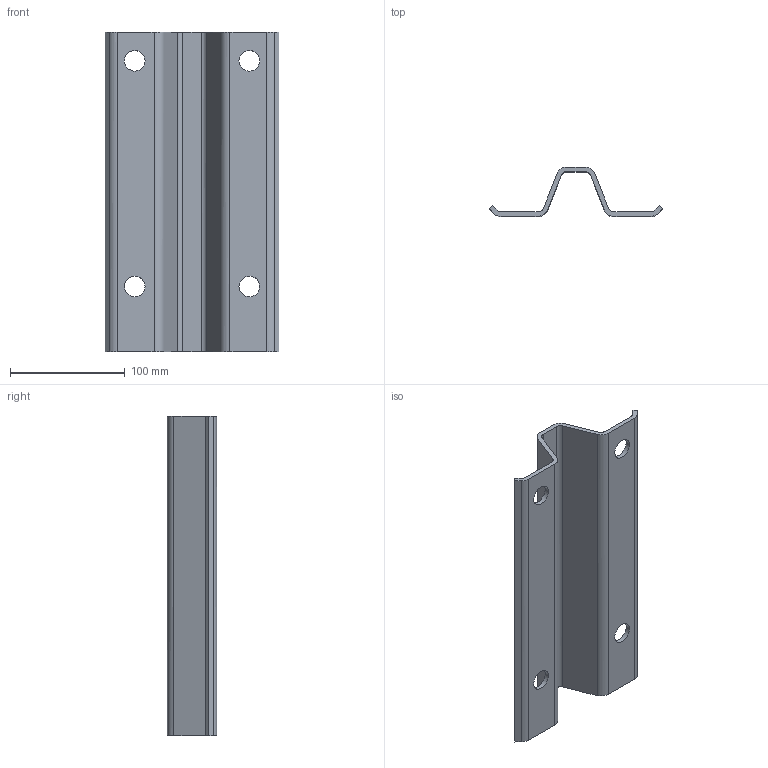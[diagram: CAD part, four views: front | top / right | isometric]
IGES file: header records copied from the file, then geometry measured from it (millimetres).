
Global section: file name: ZC300; native system: Autodesk RealDWG; preprocessor: Autodesk Translation Framework DWG producer (atf_dwg_producer); organization: unknown; date: 20230703.111550; units: centimetre
Bounding box: 151.72 x 43 x 279 mm (x, y, z)
Volume: 221159.2 mm3; surface area: 115335 mm2
Topology: 1 solids, 1 shells, 34 faces, 96 edges, 64 vertices
Faces by surface type: bspline 34
